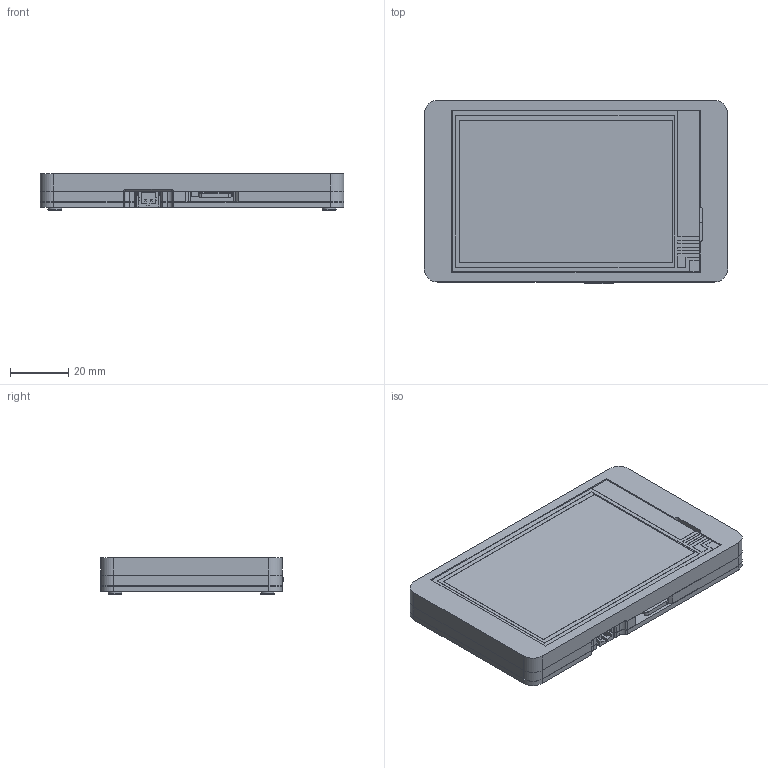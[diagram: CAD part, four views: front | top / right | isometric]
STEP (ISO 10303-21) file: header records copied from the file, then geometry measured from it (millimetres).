
FILE_DESCRIPTION((''),'2;1');
FILE_NAME('3_5IN_ASM','2024-09-18T17:03:49',('DNZJ-104'),(''),'CREO PARAMETRIC BY PTC INC, 2022164','CREO PARAMETRIC BY PTC INC, 2022164','');
FILE_SCHEMA(('CONFIG_CONTROL_DESIGN'));
Products named in the file (38): BREP_1; BREP_2; BREP_3; BREP_4; BREP_5; BREP_6; BREP_7; BREP_8; BREP_9; BREP_10; BREP_11; BREP_12; BREP_13; BREP_14; BREP_15; BREP_16; BREP_17; BREP_18; BREP_19; BREP_20; BREP_21; BREP_22; BREP_23; BREP_24; BREP_25; BREP_26; BREP_27; BREP_28; BREP_29; BREP_30; BREP_31; BREP_32; BREP_33; DOCUMENT_A_ASM; 3_5-JZ; 35IN-PCB-JZ; CROWPANEL_ESP32_DISPLAY-3_5-V2_; 3_5IN_ASM
Assembly tree (37 placements, depth 3):
  3_5IN_ASM
    DOCUMENT_A_ASM
      BREP_1
      BREP_2
      BREP_3
      BREP_4
      BREP_5
      BREP_6
      BREP_7
      BREP_8
      BREP_9
      BREP_10
      BREP_11
      BREP_12
      BREP_13
      BREP_14
      BREP_15
      BREP_16
      BREP_17
      BREP_18
      BREP_19
      BREP_20
      BREP_21
      BREP_22
      BREP_23
      BREP_24
      BREP_25
      BREP_26
      BREP_27
      BREP_28
      BREP_29
      BREP_30
      BREP_31
      BREP_32
      BREP_33
    3_5-JZ
    35IN-PCB-JZ
    CROWPANEL_ESP32_DISPLAY-3_5-V2_
Bounding box: 104.5 x 63.01 x 12.59 mm (x, y, z)
Volume: 43787.5 mm3; surface area: 62335.3 mm2
Topology: 33 solids, 79 shells, 3714 faces, 10672 edges, 7058 vertices
Faces by surface type: plane 2812, cylinder 743, bspline 88, revolution 28, torus 21, cone 11, sphere 6, extrusion 5
Entity records: 125547 total; most frequent: CARTESIAN_POINT 26980, ORIENTED_EDGE 21096, DIRECTION 19263, EDGE_CURVE 10664, VECTOR 8691, LINE 8686, VERTEX_POINT 7058, AXIS2_PLACEMENT_3D 5272
